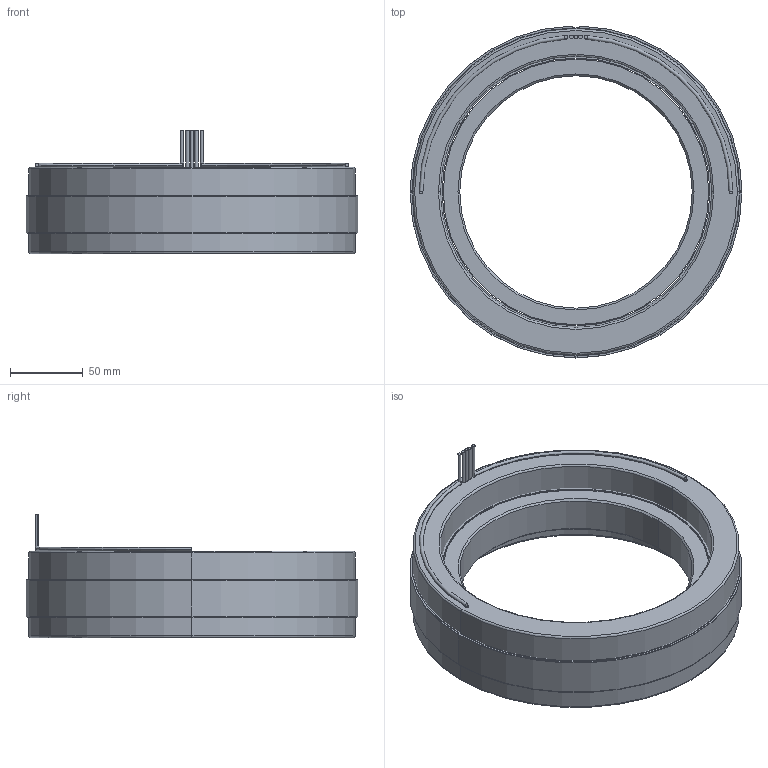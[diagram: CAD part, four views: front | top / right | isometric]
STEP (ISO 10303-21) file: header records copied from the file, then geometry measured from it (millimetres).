
FILE_DESCRIPTION (( 'STEP AP214' ), '1' );
FILE_NAME ('6100346-02.STEP', '2019-10-23T23:34:41', ( '' ), ( '' ), 'SwSTEP 2.0', 'SolidWorks 2016', '' );
FILE_SCHEMA (( 'AUTOMOTIVE_DESIGN' ));
Length unit declared in the file: millimetre
Products named in the file (10): 4450183-XX_4450183-02; 6100346-02; 4250365-XX_4250365-02; 4400076-00; 4500545-XX_4500545-02; 4150170-XX_4150170-02; 4600525-00; COMP4500545-XX(COIL)_COMP4500545-02(COIL)
Assembly tree (10 placements, depth 4):
  6100346-02
    4500545-XX_4500545-02
      COMP4500545-XX(COIL)_COMP4500545-02(COIL)
      4450183-XX_4450183-02
        4450183-XX_4450183-02
        4400076-00
        4400076-00
        4600525-00  x2
    4250365-XX_4250365-02
      4150170-XX_4150170-02
Bounding box: 228.6 x 228.58 x 85.09 mm (x, y, z)
Volume: 1264876.2 mm3; surface area: 317071.2 mm2
Topology: 14 solids, 14 shells, 98 faces, 192 edges, 124 vertices
Faces by surface type: cylinder 52, plane 30, torus 12, cone 4
Entity records: 2875 total; most frequent: DIRECTION 524, CARTESIAN_POINT 404, ORIENTED_EDGE 360, AXIS2_PLACEMENT_3D 236, EDGE_CURVE 180, CIRCLE 128, VERTEX_POINT 116, EDGE_LOOP 106
